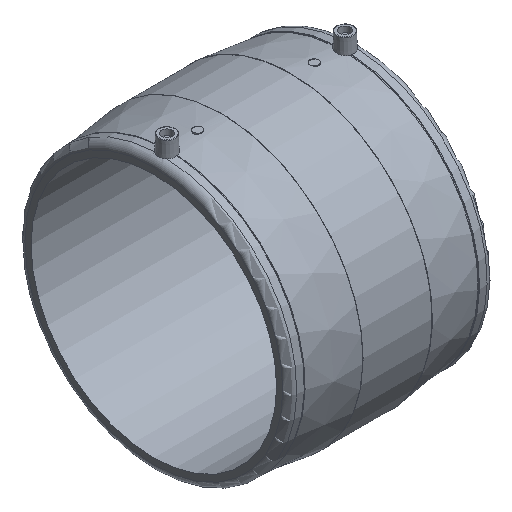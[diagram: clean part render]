
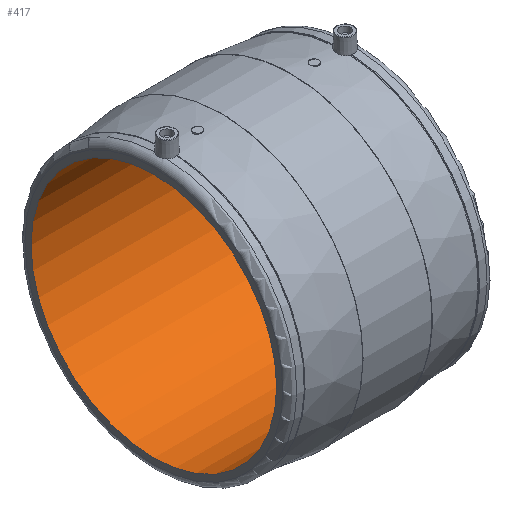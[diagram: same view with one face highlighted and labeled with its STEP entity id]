
A CAD part, isometric view. The second image highlights one B-rep face of the part: STEP entity #417.
In plain terms, the highlighted cylindrical face has radius 140 mm (diameter 280 mm), a full revolution.
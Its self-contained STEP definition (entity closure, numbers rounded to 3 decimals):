
#36=CYLINDRICAL_SURFACE('',#477,140.);
#102=ORIENTED_EDGE('',*,*,#189,.F.);
#103=ORIENTED_EDGE('',*,*,#188,.T.);
#188=EDGE_CURVE('',#228,#228,#258,.T.);
#189=EDGE_CURVE('',#229,#229,#259,.T.);
#228=VERTEX_POINT('',#800);
#229=VERTEX_POINT('',#803);
#258=CIRCLE('',#476,140.);
#259=CIRCLE('',#478,140.);
#294=EDGE_LOOP('',(#102));
#295=EDGE_LOOP('',(#103));
#354=FACE_BOUND('',#294,.T.);
#355=FACE_BOUND('',#295,.T.);
#417=ADVANCED_FACE('',(#354,#355),#36,.F.);
#476=AXIS2_PLACEMENT_3D('',#799,#565,#566);
#477=AXIS2_PLACEMENT_3D('',#801,#567,#568);
#478=AXIS2_PLACEMENT_3D('',#802,#569,#570);
#565=DIRECTION('',(-1.,0.,0.));
#566=DIRECTION('',(0.,0.,1.));
#567=DIRECTION('',(-1.,0.,0.));
#568=DIRECTION('',(0.,0.,1.));
#569=DIRECTION('',(-1.,0.,0.));
#570=DIRECTION('',(0.,0.,1.));
#799=CARTESIAN_POINT('',(-116.5,0.,0.));
#800=CARTESIAN_POINT('',(-116.5,0.,140.));
#801=CARTESIAN_POINT('',(-60.,0.,0.));
#802=CARTESIAN_POINT('',(116.5,0.,0.));
#803=CARTESIAN_POINT('',(116.5,0.,140.));
